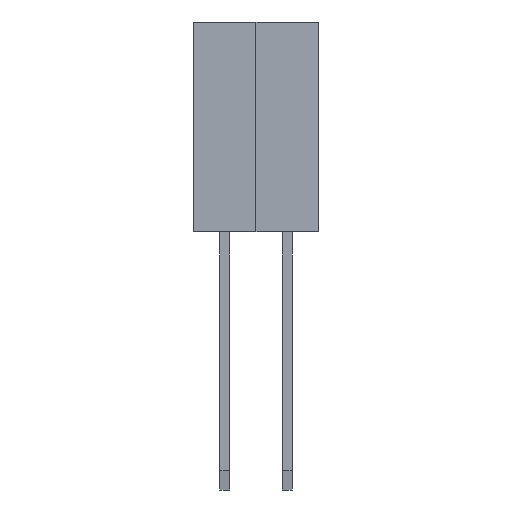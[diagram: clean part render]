
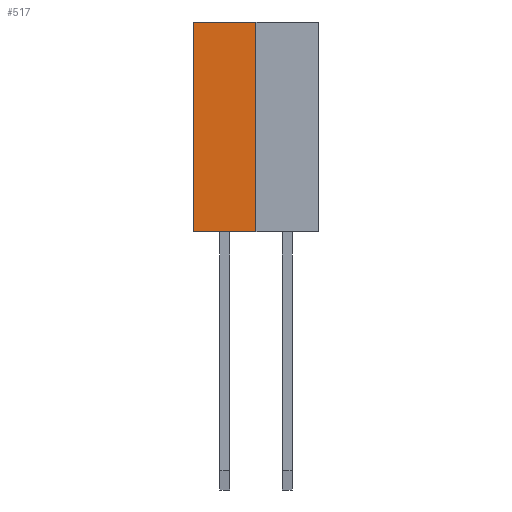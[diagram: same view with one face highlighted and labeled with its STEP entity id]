
A CAD part, left-side view. The second image highlights one B-rep face of the part: STEP entity #517.
In plain terms, the highlighted planar face has unit normal (-1, 0, 0).
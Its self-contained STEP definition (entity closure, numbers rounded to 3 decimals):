
#292 = EDGE_CURVE('',#293,#295,#297,.T.);
#293 = VERTEX_POINT('',#294);
#294 = CARTESIAN_POINT('',(-1.27,1.27,8.5));
#295 = VERTEX_POINT('',#296);
#296 = CARTESIAN_POINT('',(-1.27,-1.27,8.5));
#297 = LINE('',#298,#299);
#298 = CARTESIAN_POINT('',(-1.27,1.27,8.5));
#299 = VECTOR('',#300,1.);
#300 = DIRECTION('',(0.,-1.,0.));
#517 = ADVANCED_FACE('',(#518),#543,.T.);
#518 = FACE_BOUND('',#519,.T.);
#519 = EDGE_LOOP('',(#520,#530,#536,#537));
#520 = ORIENTED_EDGE('',*,*,#521,.F.);
#521 = EDGE_CURVE('',#522,#524,#526,.T.);
#522 = VERTEX_POINT('',#523);
#523 = CARTESIAN_POINT('',(-1.27,-1.27,0.));
#524 = VERTEX_POINT('',#525);
#525 = CARTESIAN_POINT('',(-1.27,1.27,0.));
#526 = LINE('',#527,#528);
#527 = CARTESIAN_POINT('',(-1.27,0.,0.));
#528 = VECTOR('',#529,1.);
#529 = DIRECTION('',(0.,1.,0.));
#530 = ORIENTED_EDGE('',*,*,#531,.F.);
#531 = EDGE_CURVE('',#295,#522,#532,.T.);
#532 = LINE('',#533,#534);
#533 = CARTESIAN_POINT('',(-1.27,-1.27,8.5));
#534 = VECTOR('',#535,1.);
#535 = DIRECTION('',(0.,0.,-1.));
#536 = ORIENTED_EDGE('',*,*,#292,.F.);
#537 = ORIENTED_EDGE('',*,*,#538,.T.);
#538 = EDGE_CURVE('',#293,#524,#539,.T.);
#539 = LINE('',#540,#541);
#540 = CARTESIAN_POINT('',(-1.27,1.27,8.5));
#541 = VECTOR('',#542,1.);
#542 = DIRECTION('',(0.,0.,-1.));
#543 = PLANE('',#544);
#544 = AXIS2_PLACEMENT_3D('',#545,#546,#547);
#545 = CARTESIAN_POINT('',(-1.27,0.,8.5));
#546 = DIRECTION('',(-1.,0.,0.));
#547 = DIRECTION('',(0.,0.,-1.));
